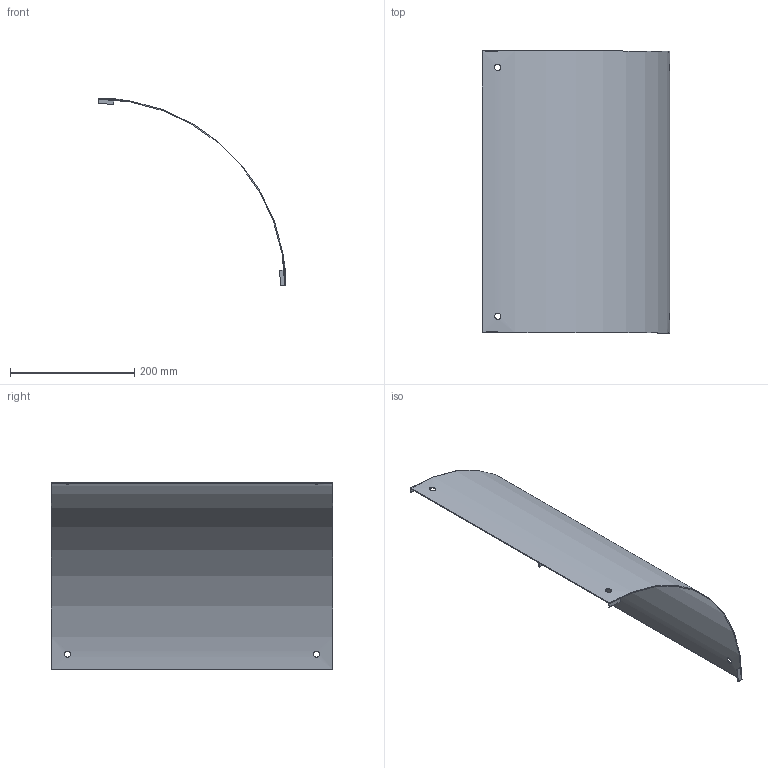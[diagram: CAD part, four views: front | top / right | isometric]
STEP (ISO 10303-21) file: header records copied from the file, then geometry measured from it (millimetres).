
FILE_DESCRIPTION(/* description */ ('','CAx-IF Rec.Pracs.---Representation and Presentation of Product Manufacturing Information (PMI)---4.0---2014-10-13'),/* implementation_level */ '2;1');
FILE_NAME(/* name */ 'Eurostrut_EORC400-90-300_Cover Outside Riser 90 for Cable Ladder ECL.step',/* time_stamp */ '2026-09-10T12:23:22+02:00',/* author */ (''),/* organization */ (''),/* preprocessor_version */ 'ST-DEVELOPER v20.1',/* originating_system */ 'Autodesk Revit 2027 27.2.0.39',/* authorisation */ '');
FILE_SCHEMA (('AP242_MANAGED_MODEL_BASED_3D_ENGINEERING_MIM_LF { 1 0 10303 442 2 1 4 }'));
Length unit declared in the file: millimetre
Products named in the file (3): TopLevelAssembly; Sweep; Joined Solid Geometry
Assembly tree (2 placements, depth 2):
  TopLevelAssembly
    Sweep
    Joined Solid Geometry
Bounding box: 301.5 x 453 x 301.5 mm (x, y, z)
Volume: 321662.5 mm3; surface area: 432238.7 mm2
Topology: 5 solids, 5 shells, 38 faces, 84 edges, 56 vertices
Faces by surface type: plane 20, cylinder 18
Entity records: 1356 total; most frequent: CARTESIAN_POINT 459, DIRECTION 174, ORIENTED_EDGE 168, EDGE_CURVE 84, AXIS2_PLACEMENT_3D 63, VERTEX_POINT 56, LINE 48, VECTOR 48
